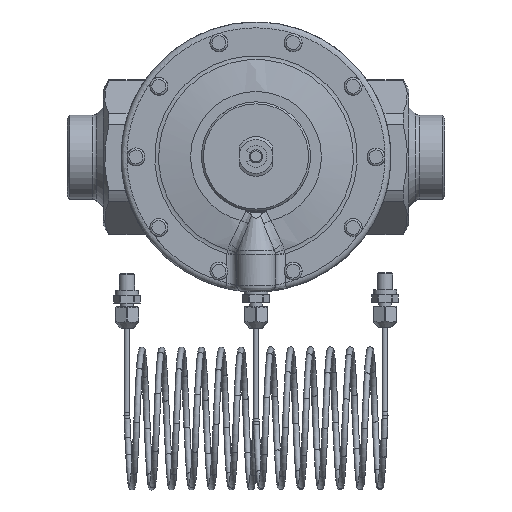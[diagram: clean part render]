
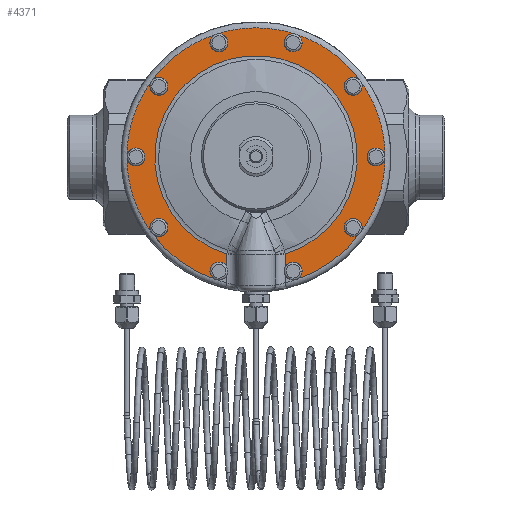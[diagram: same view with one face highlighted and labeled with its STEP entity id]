
A CAD part, top view. The second image highlights one B-rep face of the part: STEP entity #4371.
In plain terms, the highlighted planar face has unit normal (0, 0, 1).
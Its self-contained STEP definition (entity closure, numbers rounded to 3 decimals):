
#540=LINE('',#43919,#1162);
#541=LINE('',#43933,#1163);
#1162=VECTOR('',#23536,1.);
#1163=VECTOR('',#23539,1.);
#2505=FACE_OUTER_BOUND('',#7241,.T.);
#3172=B_SPLINE_CURVE_WITH_KNOTS('',3,(#43921,#43922,#43923,#43924),.UNSPECIFIED.,
 .F.,.F.,(4,4),(0.,1.),.UNSPECIFIED.);
#3173=B_SPLINE_CURVE_WITH_KNOTS('',3,(#43928,#43929,#43930,#43931),.UNSPECIFIED.,
 .F.,.F.,(4,4),(0.,1.),.UNSPECIFIED.);
#4371=ADVANCED_FACE('',(#2505),#5146,.T.);
#5146=PLANE('',#19570);
#7241=EDGE_LOOP('',(#11239,#11240,#11241,#11242,#11243,#11244,#11245,#11246,
#11247,#11248,#11249,#11250,#11251,#11252,#11253,#11254,#11255,#11256,#11257,
#11258,#11259,#11260,#11261,#11262));
#11239=ORIENTED_EDGE('',*,*,#16255,.T.);
#11240=ORIENTED_EDGE('',*,*,#16256,.F.);
#11241=ORIENTED_EDGE('',*,*,#16257,.T.);
#11242=ORIENTED_EDGE('',*,*,#16258,.F.);
#11243=ORIENTED_EDGE('',*,*,#16259,.T.);
#11244=ORIENTED_EDGE('',*,*,#16260,.F.);
#11245=ORIENTED_EDGE('',*,*,#16261,.T.);
#11246=ORIENTED_EDGE('',*,*,#16262,.F.);
#11247=ORIENTED_EDGE('',*,*,#16263,.T.);
#11248=ORIENTED_EDGE('',*,*,#16264,.F.);
#11249=ORIENTED_EDGE('',*,*,#16265,.T.);
#11250=ORIENTED_EDGE('',*,*,#16266,.F.);
#11251=ORIENTED_EDGE('',*,*,#16267,.T.);
#11252=ORIENTED_EDGE('',*,*,#16268,.T.);
#11253=ORIENTED_EDGE('',*,*,#16269,.T.);
#11254=ORIENTED_EDGE('',*,*,#16270,.T.);
#11255=ORIENTED_EDGE('',*,*,#16271,.T.);
#11256=ORIENTED_EDGE('',*,*,#16272,.F.);
#11257=ORIENTED_EDGE('',*,*,#16273,.T.);
#11258=ORIENTED_EDGE('',*,*,#16274,.F.);
#11259=ORIENTED_EDGE('',*,*,#16275,.T.);
#11260=ORIENTED_EDGE('',*,*,#16276,.F.);
#11261=ORIENTED_EDGE('',*,*,#16277,.T.);
#11262=ORIENTED_EDGE('',*,*,#16278,.F.);
#14037=VERTEX_POINT('',#43900);
#14038=VERTEX_POINT('',#43901);
#14039=VERTEX_POINT('',#43904);
#14040=VERTEX_POINT('',#43907);
#14041=VERTEX_POINT('',#43910);
#14042=VERTEX_POINT('',#43913);
#14043=VERTEX_POINT('',#43916);
#14044=VERTEX_POINT('',#43918);
#14045=VERTEX_POINT('',#43920);
#14046=VERTEX_POINT('',#43925);
#14047=VERTEX_POINT('',#43927);
#14048=VERTEX_POINT('',#43932);
#14049=VERTEX_POINT('',#43934);
#14050=VERTEX_POINT('',#43936);
#14051=VERTEX_POINT('',#43938);
#14052=VERTEX_POINT('',#43941);
#16255=EDGE_CURVE('',#14037,#14038,#17776,.T.);
#16256=EDGE_CURVE('',#14038,#14038,#17777,.T.);
#16257=EDGE_CURVE('',#14038,#14039,#17778,.T.);
#16258=EDGE_CURVE('',#14039,#14039,#17779,.T.);
#16259=EDGE_CURVE('',#14039,#14040,#17780,.T.);
#16260=EDGE_CURVE('',#14040,#14040,#17781,.T.);
#16261=EDGE_CURVE('',#14040,#14041,#17782,.T.);
#16262=EDGE_CURVE('',#14041,#14041,#17783,.T.);
#16263=EDGE_CURVE('',#14041,#14042,#17784,.T.);
#16264=EDGE_CURVE('',#14042,#14042,#17785,.T.);
#16265=EDGE_CURVE('',#14042,#14043,#17786,.T.);
#16266=EDGE_CURVE('',#14044,#14043,#17787,.T.);
#16267=EDGE_CURVE('',#14044,#14045,#540,.T.);
#16268=EDGE_CURVE('',#14045,#14046,#3172,.T.);
#16269=EDGE_CURVE('',#14046,#14047,#17788,.T.);
#16270=EDGE_CURVE('',#14047,#14048,#3173,.T.);
#16271=EDGE_CURVE('',#14048,#14049,#541,.T.);
#16272=EDGE_CURVE('',#14050,#14049,#17789,.T.);
#16273=EDGE_CURVE('',#14050,#14051,#17790,.T.);
#16274=EDGE_CURVE('',#14051,#14051,#17791,.T.);
#16275=EDGE_CURVE('',#14051,#14052,#17792,.T.);
#16276=EDGE_CURVE('',#14052,#14052,#17793,.T.);
#16277=EDGE_CURVE('',#14052,#14037,#17794,.T.);
#16278=EDGE_CURVE('',#14037,#14037,#17795,.T.);
#17776=CIRCLE('',#19550,65.);
#17777=CIRCLE('',#19551,4.5);
#17778=CIRCLE('',#19552,65.);
#17779=CIRCLE('',#19553,4.5);
#17780=CIRCLE('',#19554,65.);
#17781=CIRCLE('',#19555,4.5);
#17782=CIRCLE('',#19556,65.);
#17783=CIRCLE('',#19557,4.5);
#17784=CIRCLE('',#19558,65.);
#17785=CIRCLE('',#19559,4.5);
#17786=CIRCLE('',#19560,65.);
#17787=CIRCLE('',#19561,4.5);
#17788=CIRCLE('',#19562,51.024);
#17789=CIRCLE('',#19563,4.5);
#17790=CIRCLE('',#19564,65.);
#17791=CIRCLE('',#19565,4.5);
#17792=CIRCLE('',#19566,65.);
#17793=CIRCLE('',#19567,4.5);
#17794=CIRCLE('',#19568,65.);
#17795=CIRCLE('',#19569,4.5);
#19550=AXIS2_PLACEMENT_3D('',#43899,#23512,#23513);
#19551=AXIS2_PLACEMENT_3D('',#43902,#23514,#23515);
#19552=AXIS2_PLACEMENT_3D('',#43903,#23516,#23517);
#19553=AXIS2_PLACEMENT_3D('',#43905,#23518,#23519);
#19554=AXIS2_PLACEMENT_3D('',#43906,#23520,#23521);
#19555=AXIS2_PLACEMENT_3D('',#43908,#23522,#23523);
#19556=AXIS2_PLACEMENT_3D('',#43909,#23524,#23525);
#19557=AXIS2_PLACEMENT_3D('',#43911,#23526,#23527);
#19558=AXIS2_PLACEMENT_3D('',#43912,#23528,#23529);
#19559=AXIS2_PLACEMENT_3D('',#43914,#23530,#23531);
#19560=AXIS2_PLACEMENT_3D('',#43915,#23532,#23533);
#19561=AXIS2_PLACEMENT_3D('',#43917,#23534,#23535);
#19562=AXIS2_PLACEMENT_3D('',#43926,#23537,#23538);
#19563=AXIS2_PLACEMENT_3D('',#43935,#23540,#23541);
#19564=AXIS2_PLACEMENT_3D('',#43937,#23542,#23543);
#19565=AXIS2_PLACEMENT_3D('',#43939,#23544,#23545);
#19566=AXIS2_PLACEMENT_3D('',#43940,#23546,#23547);
#19567=AXIS2_PLACEMENT_3D('',#43942,#23548,#23549);
#19568=AXIS2_PLACEMENT_3D('',#43943,#23550,#23551);
#19569=AXIS2_PLACEMENT_3D('',#43944,#23552,#23553);
#19570=AXIS2_PLACEMENT_3D('',#43945,#23554,#23555);
#23512=DIRECTION('',(0.,0.,1.));
#23513=DIRECTION('',(1.,0.,0.));
#23514=DIRECTION('',(0.,0.,1.));
#23515=DIRECTION('',(0.588,0.809,0.));
#23516=DIRECTION('',(0.,0.,1.));
#23517=DIRECTION('',(1.,0.,0.));
#23518=DIRECTION('',(0.,0.,1.));
#23519=DIRECTION('',(0.,1.,0.));
#23520=DIRECTION('',(0.,0.,1.));
#23521=DIRECTION('',(1.,0.,0.));
#23522=DIRECTION('',(0.,0.,1.));
#23523=DIRECTION('',(-0.588,0.809,0.));
#23524=DIRECTION('',(0.,0.,1.));
#23525=DIRECTION('',(1.,0.,0.));
#23526=DIRECTION('',(0.,0.,1.));
#23527=DIRECTION('',(-0.951,0.309,0.));
#23528=DIRECTION('',(0.,0.,1.));
#23529=DIRECTION('',(1.,0.,0.));
#23530=DIRECTION('',(0.,0.,1.));
#23531=DIRECTION('',(-0.951,-0.309,0.));
#23532=DIRECTION('',(0.,0.,1.));
#23533=DIRECTION('',(1.,0.,0.));
#23534=DIRECTION('',(0.,0.,1.));
#23535=DIRECTION('',(-0.588,-0.809,0.));
#23536=DIRECTION('',(0.,1.,0.));
#23537=DIRECTION('',(0.,0.,-1.));
#23538=DIRECTION('',(1.,0.,0.));
#23539=DIRECTION('',(0.,-1.,0.));
#23540=DIRECTION('',(0.,0.,1.));
#23541=DIRECTION('',(0.,-1.,0.));
#23542=DIRECTION('',(0.,0.,1.));
#23543=DIRECTION('',(1.,0.,0.));
#23544=DIRECTION('',(0.,0.,1.));
#23545=DIRECTION('',(0.588,-0.809,0.));
#23546=DIRECTION('',(0.,0.,1.));
#23547=DIRECTION('',(1.,0.,0.));
#23548=DIRECTION('',(0.,0.,1.));
#23549=DIRECTION('',(0.951,-0.309,0.));
#23550=DIRECTION('',(0.,0.,1.));
#23551=DIRECTION('',(1.,0.,0.));
#23552=DIRECTION('',(0.,0.,1.));
#23553=DIRECTION('',(0.951,0.309,0.));
#23554=DIRECTION('',(0.,0.,1.));
#23555=DIRECTION('',(1.,0.,0.));
#43899=CARTESIAN_POINT('',(0.,0.,97.));
#43900=CARTESIAN_POINT('',(52.586,38.206,97.));
#43901=CARTESIAN_POINT('',(20.086,61.819,97.));
#43902=CARTESIAN_POINT('',(18.696,57.539,97.));
#43903=CARTESIAN_POINT('',(0.,0.,97.));
#43904=CARTESIAN_POINT('',(-20.086,61.819,97.));
#43905=CARTESIAN_POINT('',(-18.696,57.539,97.));
#43906=CARTESIAN_POINT('',(0.,0.,97.));
#43907=CARTESIAN_POINT('',(-52.586,38.206,97.));
#43908=CARTESIAN_POINT('',(-48.946,35.561,97.));
#43909=CARTESIAN_POINT('',(0.,0.,97.));
#43910=CARTESIAN_POINT('',(-65.,0.,97.));
#43911=CARTESIAN_POINT('',(-60.5,0.,97.));
#43912=CARTESIAN_POINT('',(0.,0.,97.));
#43913=CARTESIAN_POINT('',(-52.586,-38.206,97.));
#43914=CARTESIAN_POINT('',(-48.946,-35.561,97.));
#43915=CARTESIAN_POINT('',(0.,0.,97.));
#43916=CARTESIAN_POINT('',(-20.086,-61.819,97.));
#43917=CARTESIAN_POINT('',(-18.696,-57.539,97.));
#43918=CARTESIAN_POINT('',(-14.697,-55.475,97.));
#43919=CARTESIAN_POINT('',(-14.697,-50.075,97.));
#43920=CARTESIAN_POINT('',(-14.697,-49.039,97.));
#43921=CARTESIAN_POINT('',(-14.697,-49.039,97.));
#43922=CARTESIAN_POINT('',(-14.697,-48.98,97.));
#43923=CARTESIAN_POINT('',(-14.696,-48.921,97.));
#43924=CARTESIAN_POINT('',(-14.695,-48.862,97.));
#43925=CARTESIAN_POINT('',(-14.695,-48.862,97.));
#43926=CARTESIAN_POINT('',(0.,0.,97.));
#43927=CARTESIAN_POINT('',(14.695,-48.862,97.));
#43928=CARTESIAN_POINT('',(14.695,-48.862,97.));
#43929=CARTESIAN_POINT('',(14.696,-48.921,97.));
#43930=CARTESIAN_POINT('',(14.697,-48.98,97.));
#43931=CARTESIAN_POINT('',(14.697,-49.039,97.));
#43932=CARTESIAN_POINT('',(14.697,-49.039,97.));
#43933=CARTESIAN_POINT('',(14.697,-67.29,97.));
#43934=CARTESIAN_POINT('',(14.697,-55.475,97.));
#43935=CARTESIAN_POINT('',(18.696,-57.539,97.));
#43936=CARTESIAN_POINT('',(20.086,-61.819,97.));
#43937=CARTESIAN_POINT('',(0.,0.,97.));
#43938=CARTESIAN_POINT('',(52.586,-38.206,97.));
#43939=CARTESIAN_POINT('',(48.946,-35.561,97.));
#43940=CARTESIAN_POINT('',(0.,0.,97.));
#43941=CARTESIAN_POINT('',(65.,0.,97.));
#43942=CARTESIAN_POINT('',(60.5,0.,97.));
#43943=CARTESIAN_POINT('',(0.,0.,97.));
#43944=CARTESIAN_POINT('',(48.946,35.561,97.));
#43945=CARTESIAN_POINT('',(0.,-68.,97.));
